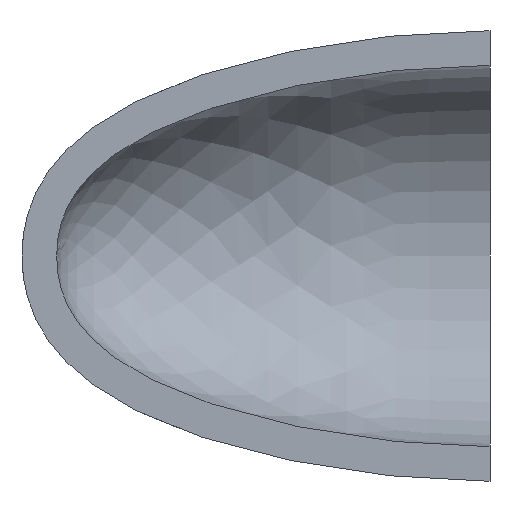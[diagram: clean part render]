
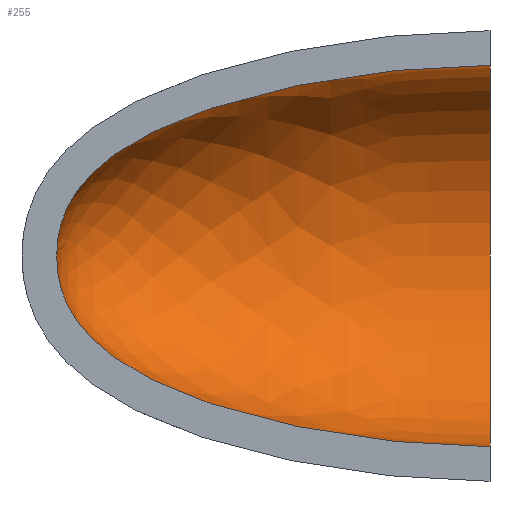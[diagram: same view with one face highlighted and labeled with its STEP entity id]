
A CAD part, left-side view. The second image highlights one B-rep face of the part: STEP entity #255.
In plain terms, the highlighted face is a revolution surface.
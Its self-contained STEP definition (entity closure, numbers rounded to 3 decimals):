
#100=CARTESIAN_POINT('Axis2P3D Location',(0.,0.,0.)) ;
#104=CARTESIAN_POINT('Vertex',(0.,0.,55.)) ;
#106=CARTESIAN_POINT('Vertex',(0.,0.,-55.)) ;
#132=CARTESIAN_POINT('Control Point',(0.,0.,-55.)) ;
#133=CARTESIAN_POINT('Control Point',(0.,2.294,-55.)) ;
#134=CARTESIAN_POINT('Control Point',(0.,4.616,-54.969)) ;
#135=CARTESIAN_POINT('Control Point',(0.,6.963,-54.909)) ;
#136=CARTESIAN_POINT('Control Point',(0.,11.894,-54.723)) ;
#137=CARTESIAN_POINT('Control Point',(0.,16.912,-54.417)) ;
#138=CARTESIAN_POINT('Control Point',(0.,19.539,-54.225)) ;
#139=CARTESIAN_POINT('Control Point',(0.,25.106,-53.756)) ;
#140=CARTESIAN_POINT('Control Point',(0.,30.737,-53.149)) ;
#141=CARTESIAN_POINT('Control Point',(0.,33.707,-52.791)) ;
#142=CARTESIAN_POINT('Control Point',(0.,40.411,-51.901)) ;
#143=CARTESIAN_POINT('Control Point',(0.,47.14,-50.814)) ;
#144=CARTESIAN_POINT('Control Point',(0.,50.88,-50.147)) ;
#145=CARTESIAN_POINT('Control Point',(0.,58.515,-48.648)) ;
#146=CARTESIAN_POINT('Control Point',(0.,66.078,-46.861)) ;
#147=CARTESIAN_POINT('Control Point',(0.,69.915,-45.866)) ;
#148=CARTESIAN_POINT('Control Point',(0.,78.8,-43.338)) ;
#149=CARTESIAN_POINT('Control Point',(0.,87.363,-40.298)) ;
#150=CARTESIAN_POINT('Control Point',(0.,92.128,-38.369)) ;
#151=CARTESIAN_POINT('Control Point',(0.,98.736,-35.272)) ;
#152=CARTESIAN_POINT('Control Point',(0.,104.732,-31.705)) ;
#153=CARTESIAN_POINT('Control Point',(0.,106.526,-30.552)) ;
#154=CARTESIAN_POINT('Control Point',(0.,109.761,-28.289)) ;
#155=CARTESIAN_POINT('Control Point',(0.,112.69,-25.861)) ;
#156=CARTESIAN_POINT('Control Point',(0.,113.991,-24.685)) ;
#157=CARTESIAN_POINT('Control Point',(0.,116.351,-22.34)) ;
#158=CARTESIAN_POINT('Control Point',(0.,118.388,-19.869)) ;
#159=CARTESIAN_POINT('Control Point',(0.,119.293,-18.646)) ;
#160=CARTESIAN_POINT('Control Point',(0.,120.723,-16.473)) ;
#161=CARTESIAN_POINT('Control Point',(0.,121.903,-14.209)) ;
#162=CARTESIAN_POINT('Control Point',(0.,122.359,-13.232)) ;
#163=CARTESIAN_POINT('Control Point',(0.,123.176,-11.255)) ;
#164=CARTESIAN_POINT('Control Point',(0.,123.815,-9.201)) ;
#165=CARTESIAN_POINT('Control Point',(0.,124.089,-8.16)) ;
#166=CARTESIAN_POINT('Control Point',(0.,124.564,-5.968)) ;
#167=CARTESIAN_POINT('Control Point',(0.,124.852,-3.683)) ;
#168=CARTESIAN_POINT('Control Point',(0.,124.951,-2.48)) ;
#169=CARTESIAN_POINT('Control Point',(0.,125.,-1.251)) ;
#170=CARTESIAN_POINT('Control Point',(0.,125.,0.)) ;
#171=CARTESIAN_POINT('Vertex',(0.,125.,0.)) ;
#175=CARTESIAN_POINT('Control Point',(0.,0.,55.)) ;
#176=CARTESIAN_POINT('Control Point',(0.,2.294,55.)) ;
#177=CARTESIAN_POINT('Control Point',(0.,4.616,54.969)) ;
#178=CARTESIAN_POINT('Control Point',(0.,6.963,54.909)) ;
#179=CARTESIAN_POINT('Control Point',(0.,11.894,54.723)) ;
#180=CARTESIAN_POINT('Control Point',(0.,16.912,54.417)) ;
#181=CARTESIAN_POINT('Control Point',(0.,19.539,54.225)) ;
#182=CARTESIAN_POINT('Control Point',(0.,25.106,53.756)) ;
#183=CARTESIAN_POINT('Control Point',(0.,30.737,53.149)) ;
#184=CARTESIAN_POINT('Control Point',(0.,33.707,52.791)) ;
#185=CARTESIAN_POINT('Control Point',(0.,40.411,51.901)) ;
#186=CARTESIAN_POINT('Control Point',(0.,47.14,50.814)) ;
#187=CARTESIAN_POINT('Control Point',(0.,50.88,50.147)) ;
#188=CARTESIAN_POINT('Control Point',(0.,58.515,48.648)) ;
#189=CARTESIAN_POINT('Control Point',(0.,66.078,46.861)) ;
#190=CARTESIAN_POINT('Control Point',(0.,69.915,45.866)) ;
#191=CARTESIAN_POINT('Control Point',(0.,78.8,43.338)) ;
#192=CARTESIAN_POINT('Control Point',(0.,87.363,40.298)) ;
#193=CARTESIAN_POINT('Control Point',(0.,92.128,38.369)) ;
#194=CARTESIAN_POINT('Control Point',(0.,98.736,35.272)) ;
#195=CARTESIAN_POINT('Control Point',(0.,104.732,31.705)) ;
#196=CARTESIAN_POINT('Control Point',(0.,106.526,30.552)) ;
#197=CARTESIAN_POINT('Control Point',(0.,109.761,28.289)) ;
#198=CARTESIAN_POINT('Control Point',(0.,112.69,25.861)) ;
#199=CARTESIAN_POINT('Control Point',(0.,113.991,24.685)) ;
#200=CARTESIAN_POINT('Control Point',(0.,116.351,22.34)) ;
#201=CARTESIAN_POINT('Control Point',(0.,118.388,19.869)) ;
#202=CARTESIAN_POINT('Control Point',(0.,119.293,18.646)) ;
#203=CARTESIAN_POINT('Control Point',(0.,120.723,16.473)) ;
#204=CARTESIAN_POINT('Control Point',(0.,121.903,14.209)) ;
#205=CARTESIAN_POINT('Control Point',(0.,122.359,13.232)) ;
#206=CARTESIAN_POINT('Control Point',(0.,123.176,11.255)) ;
#207=CARTESIAN_POINT('Control Point',(0.,123.815,9.201)) ;
#208=CARTESIAN_POINT('Control Point',(0.,124.089,8.16)) ;
#209=CARTESIAN_POINT('Control Point',(0.,124.564,5.968)) ;
#210=CARTESIAN_POINT('Control Point',(0.,124.852,3.683)) ;
#211=CARTESIAN_POINT('Control Point',(0.,124.951,2.48)) ;
#212=CARTESIAN_POINT('Control Point',(0.,125.,1.251)) ;
#213=CARTESIAN_POINT('Control Point',(0.,125.,0.)) ;
#225=CARTESIAN_POINT('Control Point',(0.,0.,55.)) ;
#226=CARTESIAN_POINT('Control Point',(0.,7.157,55.)) ;
#227=CARTESIAN_POINT('Control Point',(0.,14.827,54.701)) ;
#228=CARTESIAN_POINT('Control Point',(0.,22.989,54.095)) ;
#229=CARTESIAN_POINT('Control Point',(0.,40.02,52.235)) ;
#230=CARTESIAN_POINT('Control Point',(0.,57.682,48.983)) ;
#231=CARTESIAN_POINT('Control Point',(0.,66.475,46.986)) ;
#232=CARTESIAN_POINT('Control Point',(0.,79.221,43.392)) ;
#233=CARTESIAN_POINT('Control Point',(0.,90.705,38.903)) ;
#234=CARTESIAN_POINT('Control Point',(0.,94.359,37.308)) ;
#235=CARTESIAN_POINT('Control Point',(0.,101.255,33.925)) ;
#236=CARTESIAN_POINT('Control Point',(0.,107.209,30.187)) ;
#237=CARTESIAN_POINT('Control Point',(0.,109.923,28.236)) ;
#238=CARTESIAN_POINT('Control Point',(0.,114.779,24.2)) ;
#239=CARTESIAN_POINT('Control Point',(0.,118.483,19.924)) ;
#240=CARTESIAN_POINT('Control Point',(0.,120.042,17.734)) ;
#241=CARTESIAN_POINT('Control Point',(0.,122.624,13.239)) ;
#242=CARTESIAN_POINT('Control Point',(0.,124.182,8.351)) ;
#243=CARTESIAN_POINT('Control Point',(0.,124.719,5.771)) ;
#244=CARTESIAN_POINT('Control Point',(0.,125.,2.995)) ;
#245=CARTESIAN_POINT('Control Point',(0.,125.,0.)) ;
#246=CARTESIAN_POINT('Axis1P Location',(0.,0.,0.)) ;
#101=DIRECTION('Axis2P3D Direction',(0.,1.,0.)) ;
#247=DIRECTION('Axis1P Direction',(0.,1.,0.)) ;
#102=AXIS2_PLACEMENT_3D('Circle Axis2P3D',#100,#101,$) ;
#251=ORIENTED_EDGE('',*,*,#108,.F.) ;
#252=ORIENTED_EDGE('',*,*,#214,.T.) ;
#253=ORIENTED_EDGE('',*,*,#173,.F.) ;
#255=ADVANCED_FACE('PartBody',(#254),#249,.F.) ;
#248=AXIS1_PLACEMENT('Revolution Surface Axis1P',#246,#247) ;
#131=B_SPLINE_CURVE_WITH_KNOTS('',5,(#132,#133,#134,#135,#136,#137,#138,#139,#140,#141,#142,#143,#144,#145,#146,#147,#148,#149,#150,#151,#152,#153,#154,#155,#156,#157,#158,#159,#160,#161,#162,#163,#164,#165,#166,#167,#168,#169,#170),.UNSPECIFIED.,.F.,.U.,(6,3,3,3,3,3,3,3,3,3,3,3,6),(0.,16.607,34.549,54.392,79.204,105.164,139.983,155.633,169.485,182.438,191.977,201.391,211.411),.UNSPECIFIED.) ;
#174=B_SPLINE_CURVE_WITH_KNOTS('',5,(#175,#176,#177,#178,#179,#180,#181,#182,#183,#184,#185,#186,#187,#188,#189,#190,#191,#192,#193,#194,#195,#196,#197,#198,#199,#200,#201,#202,#203,#204,#205,#206,#207,#208,#209,#210,#211,#212,#213),.UNSPECIFIED.,.F.,.U.,(6,3,3,3,3,3,3,3,3,3,3,3,6),(0.,16.607,34.549,54.392,79.204,105.164,139.983,155.633,169.485,182.438,191.977,201.391,211.411),.UNSPECIFIED.) ;
#224=B_SPLINE_CURVE_WITH_KNOTS('',5,(#225,#226,#227,#228,#229,#230,#231,#232,#233,#234,#235,#236,#237,#238,#239,#240,#241,#242,#243,#244,#245),.UNSPECIFIED.,.F.,.U.,(6,3,3,3,3,3,6),(0.,37.458,74.917,93.646,112.375,131.104,149.833),.UNSPECIFIED.) ;
#103=CIRCLE('generated circle',#102,55.) ;
#108=EDGE_CURVE('',#105,#107,#103,.T.) ;
#173=EDGE_CURVE('',#107,#172,#131,.T.) ;
#214=EDGE_CURVE('',#105,#172,#174,.T.) ;
#250=EDGE_LOOP('',(#251,#252,#253)) ;
#254=FACE_OUTER_BOUND('',#250,.T.) ;
#249=SURFACE_OF_REVOLUTION('Surface of Revolution',#224,#248) ;
#105=VERTEX_POINT('',#104) ;
#107=VERTEX_POINT('',#106) ;
#172=VERTEX_POINT('',#171) ;
